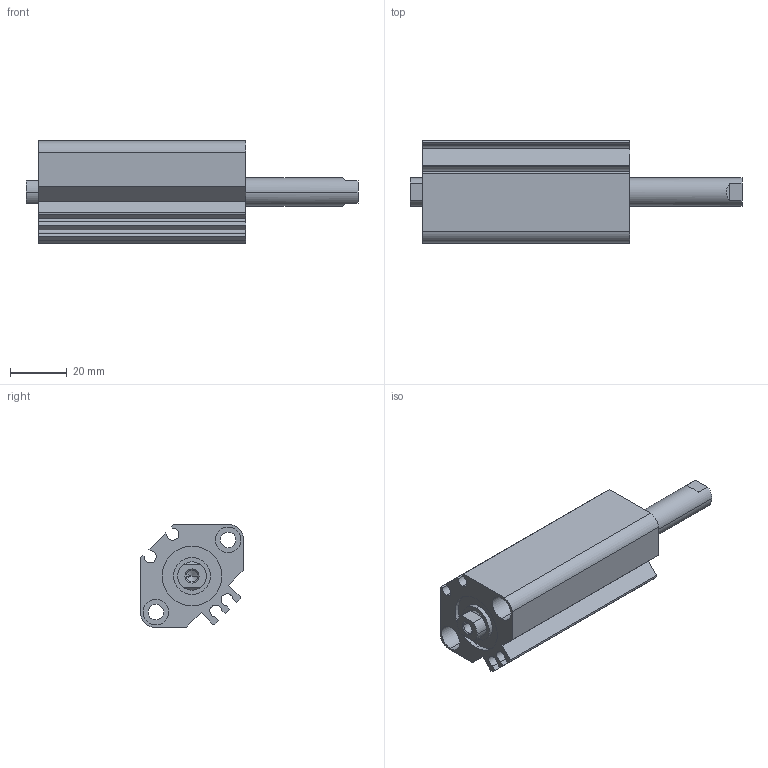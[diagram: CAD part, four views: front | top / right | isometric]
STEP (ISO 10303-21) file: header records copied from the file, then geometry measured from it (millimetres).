
FILE_DESCRIPTION (( 'STEP AP203' ), '1' );
FILE_NAME ('CCMB20-35F-P.STEP', '2020-08-05T11:07:09', ( '' ), ( '' ), 'SwSTEP 2.0', 'SolidWorks 2019', '' );
FILE_SCHEMA (( 'CONFIG_CONTROL_DESIGN' ));
Length unit declared in the file: millimetre
Products named in the file (1): CCMB20-35F-P
Bounding box: 117 x 36 x 36 mm (x, y, z)
Volume: 65639.1 mm3; surface area: 26997.1 mm2
Topology: 2 solids, 2 shells, 114 faces, 276 edges, 178 vertices
Faces by surface type: cylinder 52, plane 50, cone 12
Entity records: 3419 total; most frequent: DIRECTION 614, CARTESIAN_POINT 577, ORIENTED_EDGE 544, EDGE_CURVE 272, AXIS2_PLACEMENT_3D 231, VERTEX_POINT 178, LINE 152, VECTOR 152
